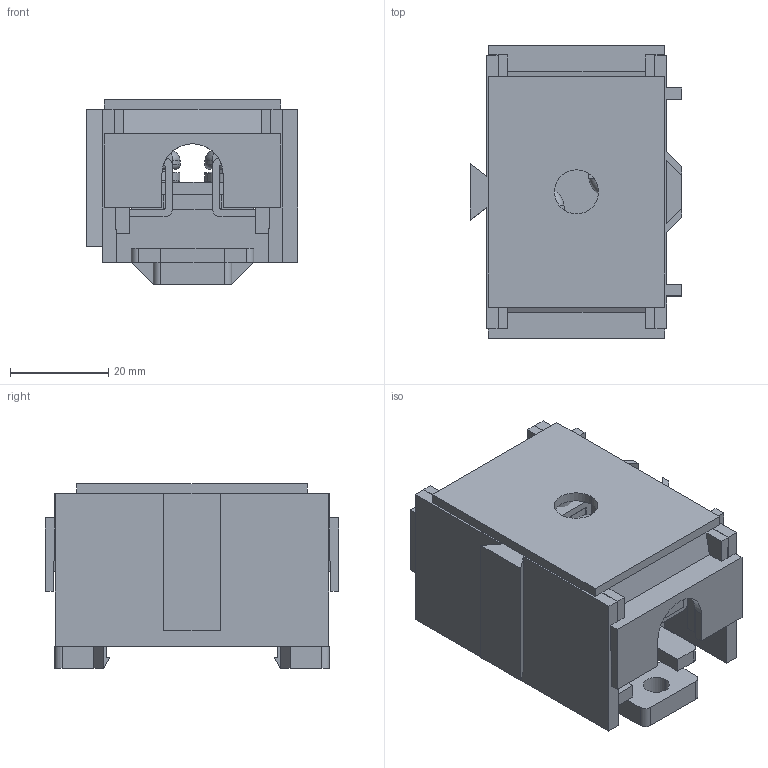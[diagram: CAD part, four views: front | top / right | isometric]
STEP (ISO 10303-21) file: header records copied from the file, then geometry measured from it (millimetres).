
FILE_DESCRIPTION (( 'STEP AP203' ), '1' );
FILE_NAME ('RBP-35-50 Áëîê ïðîõîäíîé ÐÁÏ 35 (1õ35-4õ6 ìì2) 125-50À.STEP', '2017-02-14T08:42:53', ( 'kuryshev' ), ( '' ), 'SwSTEP 2.0', 'SolidWorks 2010', '' );
FILE_SCHEMA (( 'CONFIG_CONTROL_DESIGN' ));
Length unit declared in the file: millimetre
Products named in the file (1): RBP-35-50 Áëîê ïðîõîäíîé ÐÁÏ 35 (1õ35-4õ6 ìì2) 125-50À
Bounding box: 43.2 x 59.8 x 37.7 mm (x, y, z)
Volume: 31631.7 mm3; surface area: 32094.6 mm2
Topology: 18 solids, 18 shells, 754 faces, 2132 edges, 1381 vertices
Faces by surface type: plane 533, cylinder 181, torus 20, cone 16, bspline 4
Entity records: 24988 total; most frequent: CARTESIAN_POINT 5034, ORIENTED_EDGE 4264, DIRECTION 3989, EDGE_CURVE 2132, LINE 1669, VECTOR 1669, VERTEX_POINT 1381, AXIS2_PLACEMENT_3D 1160
